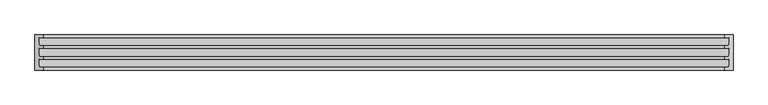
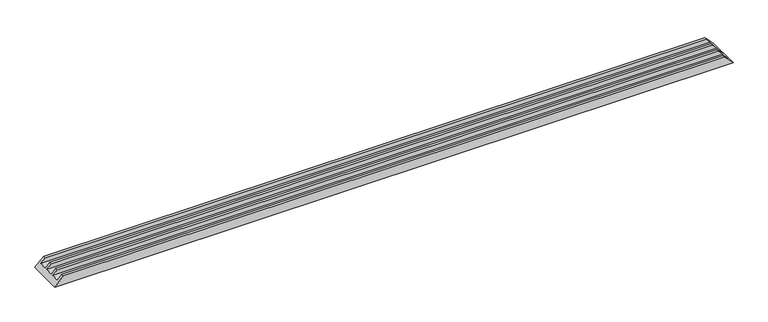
"""IFC4 building model written with IfcOpenShell, lengths in millimetres: proxy geometry, Weiku - Montante - Caixilho quadruplo 02.2.01.003-002 refilado : Weiku - Montante - Caixilho quadruplo 02.2.01.003-002 refilado."""

from ifc_helpers import new_model, si_unit, origin, place, context, project, spatial, faceted_brep, source, transform, mapped, element, save


def generic_models_15349d4b(model_context):
    return source(origin(), model_context, "Body", "Brep", [
        faceted_brep([(-1971.0, -77.0, 26.0), (1971.0, -77.0, 26.0), (1945.0, -77.0, 52.0), (-1945.0, -77.0, 52.0), (-1973.2229744, -124.0, 23.7770256), (1973.2229744, -124.0, 23.7770256), (-1945.0, -124.0, 52.0), (1945.0, -124.0, 52.0), (-1945.0, -139.0, 52.0), (1945.0, -139.0, 52.0), (-1997.0, -201.0, 0.0), (-1997.0, 0.0, 0.0), (1997.0, 0.0, 0.0), (1997.0, -201.0, 0.0), (1945.0, -62.0, 52.0), (-1945.0, -62.0, 52.0), (-1971.0, -139.0, 26.0), (1971.0, -139.0, 26.0), (-1973.2229744, -186.0, 23.7770256), (1973.2229744, -186.0, 23.7770256), (-1945.0, -186.0, 52.0), (1945.0, -186.0, 52.0), (-1945.0, -201.0, 52.0), (1945.0, -201.0, 52.0), (-1945.0, 0.0, 52.0), (1945.0, 0.0, 52.0), (-1945.0, -15.0, 52.0), (1945.0, -15.0, 52.0), (-1971.0, -15.0, 26.0), (1971.0, -15.0, 26.0), (-1973.2229744, -62.0, 23.7770256), (1973.2229744, -62.0, 23.7770256)], [[[0, 1, 2, 3]], [[4, 5, 1, 0]], [[6, 7, 5, 4]], [[8, 9, 7, 6]], [[10, 11, 12, 13]], [[3, 2, 14, 15]], [[16, 17, 9, 8]], [[18, 19, 17, 16]], [[20, 21, 19, 18]], [[22, 23, 21, 20]], [[13, 23, 22, 10]], [[11, 24, 25, 12]], [[26, 27, 25, 24]], [[28, 29, 27, 26]], [[30, 31, 29, 28]], [[15, 14, 31, 30]], [[3, 15, 30, 28, 26, 24, 11, 10, 22, 20, 18, 16, 8, 6, 4, 0]], [[1, 5, 7, 9, 17, 19, 21, 23, 13, 12, 25, 27, 29, 31, 14, 2]]]),
    ])


if __name__ == "__main__":
    model = new_model("IFC4")
    model_context = context("Model", 3, world=origin())
    ifc_project = project(units=[si_unit("LENGTHUNIT", "METRE", prefix="MILLI")], contexts=[model_context])
    site = spatial("IfcSite", under=ifc_project)
    building = spatial("IfcBuilding", under=site)
    placement = place(None, origin())
    generic_models_shape = generic_models_15349d4b(model_context)
    element("IfcBuildingElementProxy", 1, Name="Weiku - Montante - Caixilho quadruplo 02.2.01.003-002 refilado : Weiku - Montante - Caixilho quadruplo 02.2.01.003-002 refilado", ObjectType="Weiku - Montante - Caixilho quadruplo 02.2.01.003-002 refilado : Weiku - Montante - Caixilho quadruplo 02.2.01.003-002 refilado", at=placement, inside=building, context=model_context, shape_type="MappedRepresentation", body=[
        mapped(generic_models_shape, transform((0.0, 0.0, 0.0), x_axis=(1.0, 0.0, 0.0), y_axis=(0.0, 1.0, 0.0), z_axis=(0.0, 0.0, 1.0))),
    ])
    save(model, "model.ifc")
